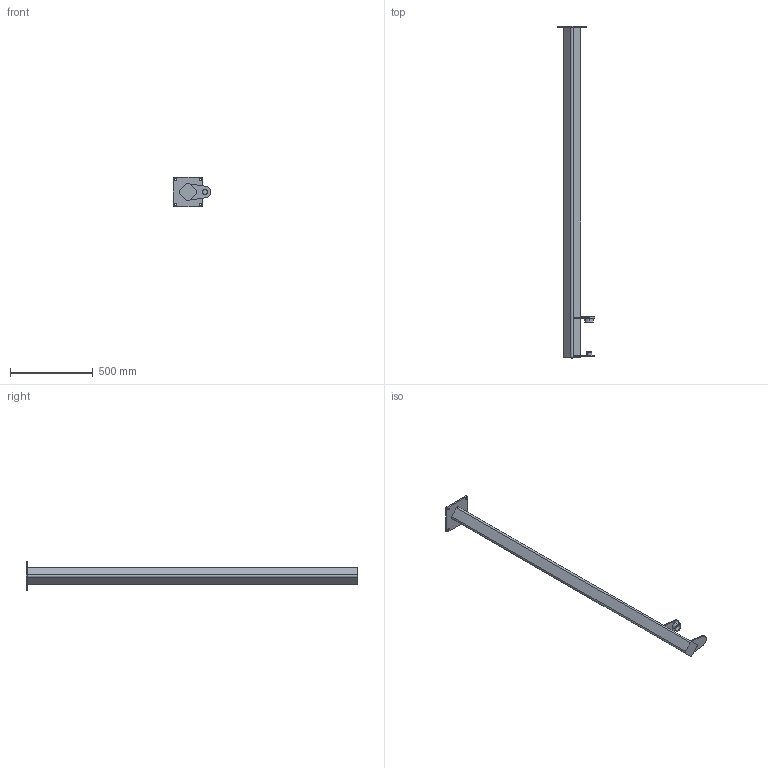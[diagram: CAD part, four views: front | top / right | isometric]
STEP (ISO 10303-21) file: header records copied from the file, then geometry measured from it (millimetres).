
FILE_DESCRIPTION((''),'2;1');
FILE_NAME('PTZ_2000_100-6315','2019-08-23T13:54:46',('Tomas Bellgran'),(''),'CREO PARAMETRIC BY PTC INC, 2018260','CREO PARAMETRIC BY PTC INC, 2018260','');
FILE_SCHEMA(('AUTOMOTIVE_DESIGN { 1 0 10303 214 1 1 1 1 }'));
Length unit declared in the file: millimetre
Products named in the file (1): PTZ_2000_100-6315
Bounding box: 228.42 x 2000 x 180 mm (x, y, z)
Volume: 12969004.1 mm3; surface area: 716126.7 mm2
Topology: 1 solids, 1 shells, 65 faces, 172 edges, 114 vertices
Faces by surface type: cylinder 33, plane 30, cone 2
Entity records: 2256 total; most frequent: DIRECTION 385, CARTESIAN_POINT 362, ORIENTED_EDGE 344, EDGE_CURVE 172, AXIS2_PLACEMENT_3D 140, VERTEX_POINT 114, VECTOR 102, LINE 102
